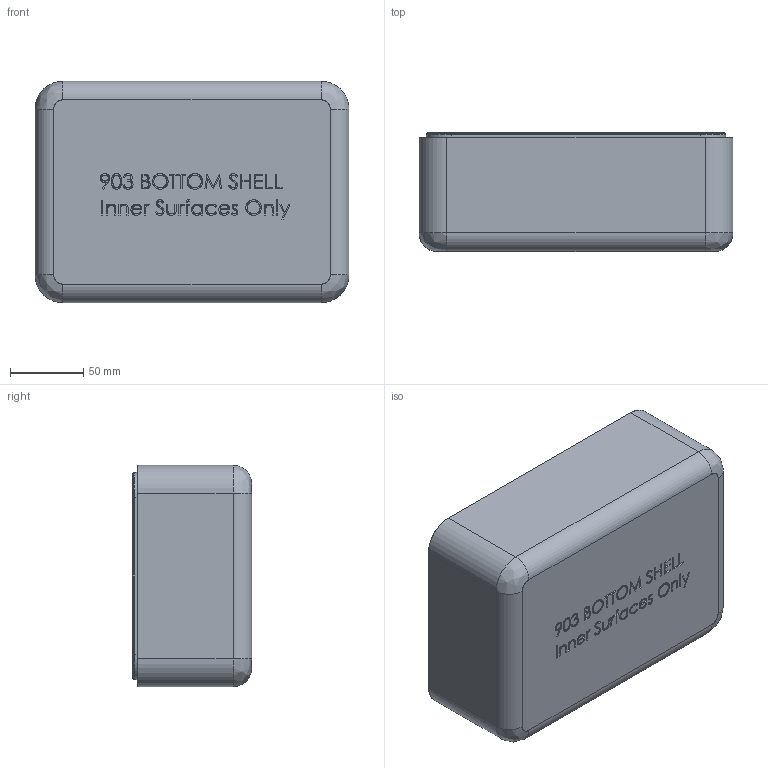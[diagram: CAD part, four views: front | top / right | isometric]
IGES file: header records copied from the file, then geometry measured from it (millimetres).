
Start section: SolidWorks IGES file using analytic representation for surfaces
Global section: file name: C:\Users\plouimet.NORADEV\Desktop\NANUK_903_Bottom_INNER SURFS_IGES.IGS; native system: SolidWorks 2014; preprocessor: SolidWorks 2014; author: plouimet; date: 140707.161843; units: inch
Bounding box: 214.94 x 81.7 x 151.57 mm (x, y, z)
Surface area: 163426.6 mm2 (no closed solid volume)
Topology: 0 solids, 0 shells, 871 faces, 11742 edges, 11716 vertices
Faces by surface type: bspline 697, revolution 174
